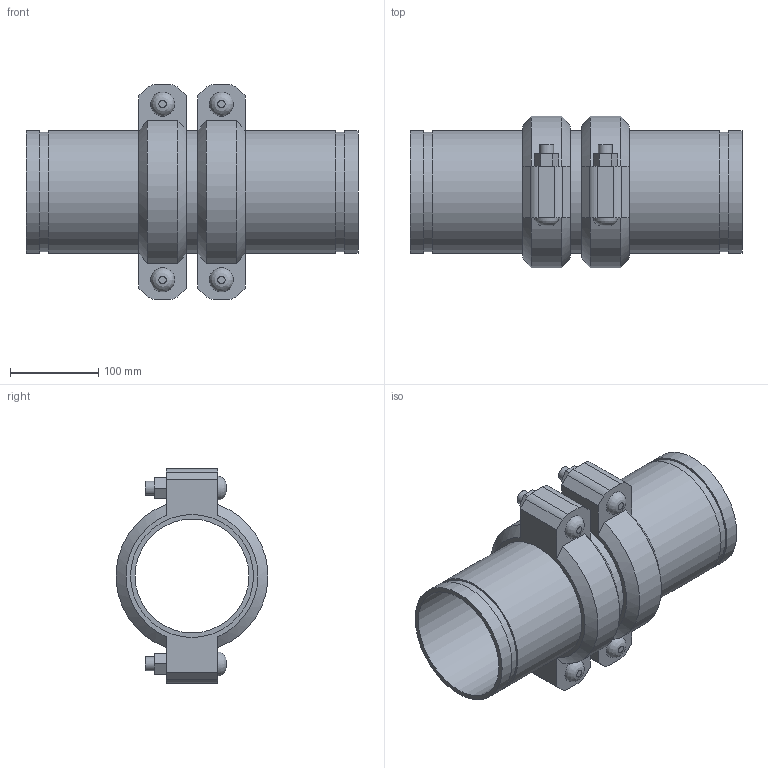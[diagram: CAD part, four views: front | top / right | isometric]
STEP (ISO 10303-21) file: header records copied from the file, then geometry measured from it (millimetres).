
FILE_DESCRIPTION(/* description */ ('VIC EXPANSION JOINT 2 COUPLINGS EXPANDED STYLE 155 (OGS)','CAx-IF Rec.Pracs.---Representation and Presentation of Product Manufacturing Information (PMI)---4.0---2014-10-13'),/* implementation_level */ '2;1');
FILE_NAME(/* name */ 'C:\Users\kkamble\AppData\Roaming\Autodesk\ApplicationPlugins\Victaulic.Temp\A706\Victaulic_IPS_Expansion Joint_Expanded_2 Couplings_Style 155 (OGS)_05.0 (139.7) (125).stp',/* time_stamp */ '2021-06-26T23:56:40+02:00',/* author */ ('kkamble'),/* organization */ ('Victaulic'),/* preprocessor_version */ 'ST-DEVELOPER v17.2',/* originating_system */ 'Autodesk Inventor 2019',/* authorisation */ '');
FILE_SCHEMA (('AP242_MANAGED_MODEL_BASED_3D_ENGINEERING_MIM_LF { 1 0 10303 442 1 1 4 }'));
Length unit declared in the file: inch
Products named in the file (4): 155-05.0 (139.7); Nipple-05.0 (139.7); Nipple-05.0 (139.7)_1; 075-05.0 (139.7)
Assembly tree (5 placements, depth 2):
  155-05.0 (139.7)
    Nipple-05.0 (139.7)  x2
    Nipple-05.0 (139.7)_1
    075-05.0 (139.7)  x2
Bounding box: 377.19 x 172.14 x 243.59 mm (x, y, z)
Volume: 2025735.9 mm3; surface area: 533179.9 mm2
Topology: 5 solids, 9 shells, 150 faces, 356 edges, 252 vertices
Faces by surface type: plane 90, cylinder 48, cone 8, bspline 4
Full cylindrical faces by diameter (mm): 15.875 x8, 17.424 x4, 129.388 x3, 133.35 x2, 135.484 x6, 139.7 x13
Entity records: 2753 total; most frequent: CARTESIAN_POINT 489, DIRECTION 453, ORIENTED_EDGE 386, EDGE_CURVE 193, AXIS2_PLACEMENT_3D 180, VERTEX_POINT 138, EDGE_LOOP 107, LINE 93
